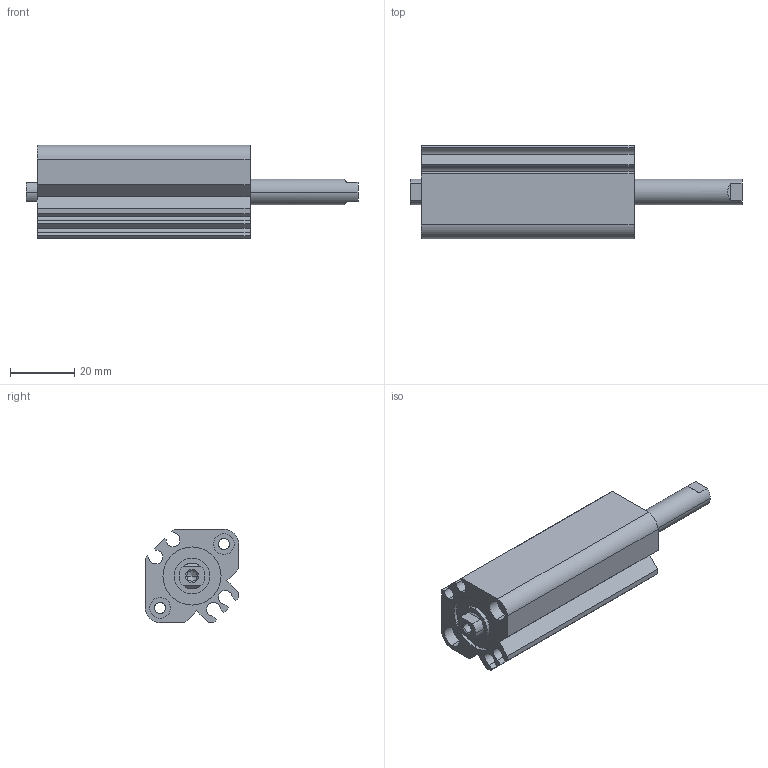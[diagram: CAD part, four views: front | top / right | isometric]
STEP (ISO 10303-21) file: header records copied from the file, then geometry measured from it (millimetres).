
FILE_DESCRIPTION (( 'STEP AP203' ), '1' );
FILE_NAME ('CCMB16-30F-P.STEP', '2020-08-05T11:04:27', ( '' ), ( '' ), 'SwSTEP 2.0', 'SolidWorks 2019', '' );
FILE_SCHEMA (( 'CONFIG_CONTROL_DESIGN' ));
Length unit declared in the file: millimetre
Products named in the file (1): CCMB16-30F-P
Bounding box: 103 x 29 x 29 mm (x, y, z)
Volume: 39160.1 mm3; surface area: 19292.8 mm2
Topology: 2 solids, 2 shells, 114 faces, 276 edges, 178 vertices
Faces by surface type: cylinder 52, plane 50, cone 12
Entity records: 3419 total; most frequent: DIRECTION 614, CARTESIAN_POINT 577, ORIENTED_EDGE 544, EDGE_CURVE 272, AXIS2_PLACEMENT_3D 231, VERTEX_POINT 178, VECTOR 152, LINE 152
